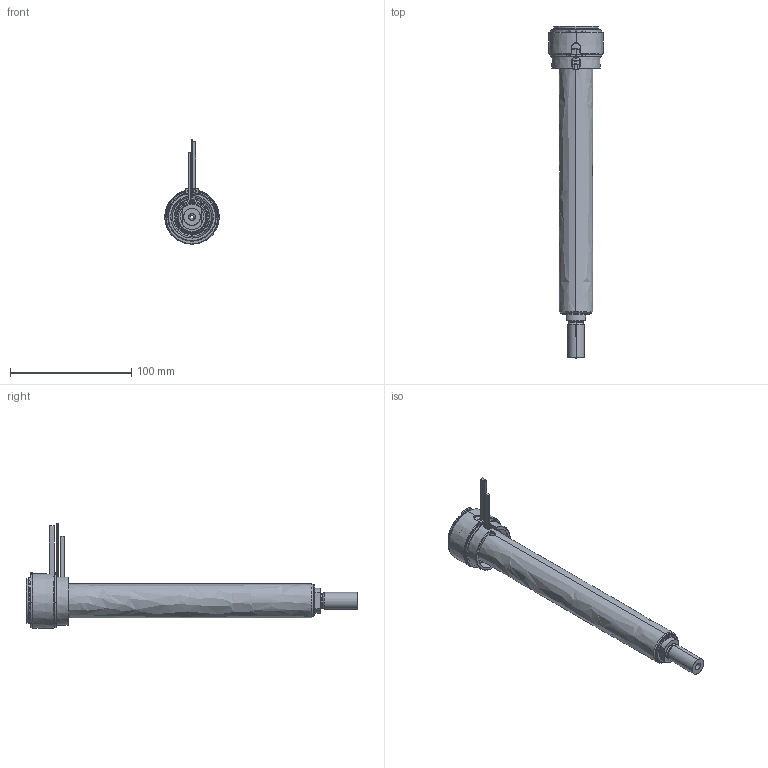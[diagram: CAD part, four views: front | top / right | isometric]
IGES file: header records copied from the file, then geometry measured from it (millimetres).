
Start section: SolidWorks IGES file using analytic representation for surfaces
Global section: file name: C:\Documents and Settings\ws-20\Desktop\TEM\UGBE4505-M-A-P-3 [Ød-2.5 P-25 ØC-10].IGS; native system: SolidWorks 2012; preprocessor: SolidWorks 2012; author: ws-20; date: 120412.155051; units: millimetre
Bounding box: 45 x 274.25 x 86.15 mm (x, y, z)
Surface area: 83287.9 mm2 (no closed solid volume)
Topology: 0 solids, 0 shells, 161 faces, 2999 edges, 2999 vertices
Faces by surface type: revolution 99, bspline 62
